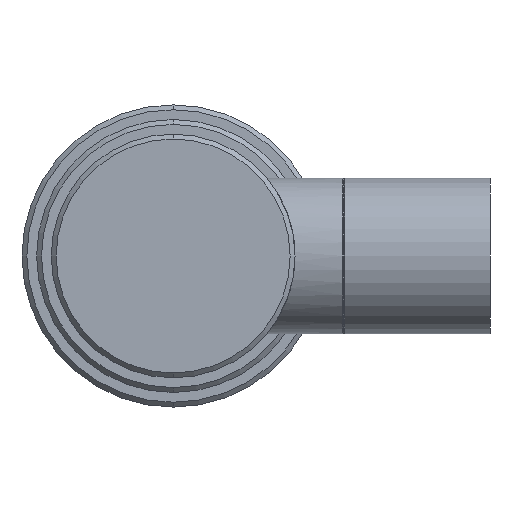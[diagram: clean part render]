
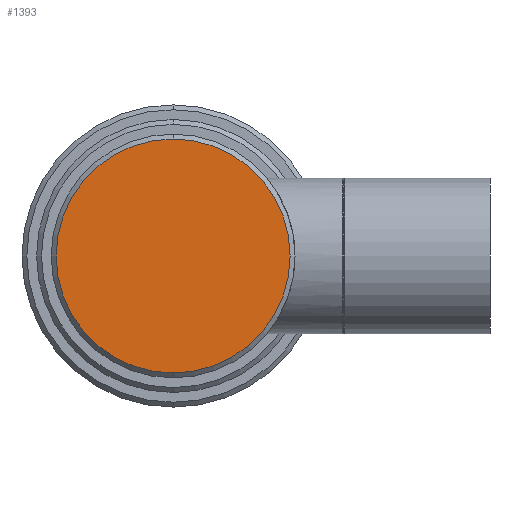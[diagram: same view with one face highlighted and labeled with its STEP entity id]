
A CAD part, left-side view. The second image highlights one B-rep face of the part: STEP entity #1393.
In plain terms, the highlighted planar face has unit normal (-1, 0, 0).
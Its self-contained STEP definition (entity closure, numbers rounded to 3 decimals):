
#62 = AXIS2_PLACEMENT_3D ( 'NONE', #149, #914, #271 ) ;
#147 = FACE_OUTER_BOUND ( 'NONE', #1215, .T. ) ;
#149 = CARTESIAN_POINT ( 'NONE',  ( 0., 0., 0. ) ) ;
#163 = CIRCLE ( 'NONE', #623, 12. ) ;
#201 = DIRECTION ( 'NONE',  ( 0., 0., 1. ) ) ;
#271 = DIRECTION ( 'NONE',  ( 0., 0., 1. ) ) ;
#368 = CIRCLE ( 'NONE', #62, 12. ) ;
#406 = CARTESIAN_POINT ( 'NONE',  ( 0., 0., -12. ) ) ;
#435 = DIRECTION ( 'NONE',  ( -1., 0., 0. ) ) ;
#592 = DIRECTION ( 'NONE',  ( 0., 0., -1. ) ) ;
#595 = VERTEX_POINT ( 'NONE', #406 ) ;
#623 = AXIS2_PLACEMENT_3D ( 'NONE', #852, #435, #201 ) ;
#708 = CARTESIAN_POINT ( 'NONE',  ( 0., 0., 12. ) ) ;
#797 = EDGE_CURVE ( 'NONE', #1398, #595, #368, .T. ) ;
#852 = CARTESIAN_POINT ( 'NONE',  ( 0., 0., 0. ) ) ;
#914 = DIRECTION ( 'NONE',  ( -1., 0., 0. ) ) ;
#960 = AXIS2_PLACEMENT_3D ( 'NONE', #1029, #1237, #592 ) ;
#1022 = ORIENTED_EDGE ( 'NONE', *, *, #1113, .T. ) ;
#1029 = CARTESIAN_POINT ( 'NONE',  ( 0., 0., 0. ) ) ;
#1113 = EDGE_CURVE ( 'NONE', #595, #1398, #163, .T. ) ;
#1182 = ORIENTED_EDGE ( 'NONE', *, *, #797, .T. ) ;
#1215 = EDGE_LOOP ( 'NONE', ( #1022, #1182 ) ) ;
#1237 = DIRECTION ( 'NONE',  ( 1., 0., 0. ) ) ;
#1347 = PLANE ( 'NONE',  #960 ) ;
#1393 = ADVANCED_FACE ( 'NONE', ( #147 ), #1347, .F. ) ;
#1398 = VERTEX_POINT ( 'NONE', #708 ) ;
